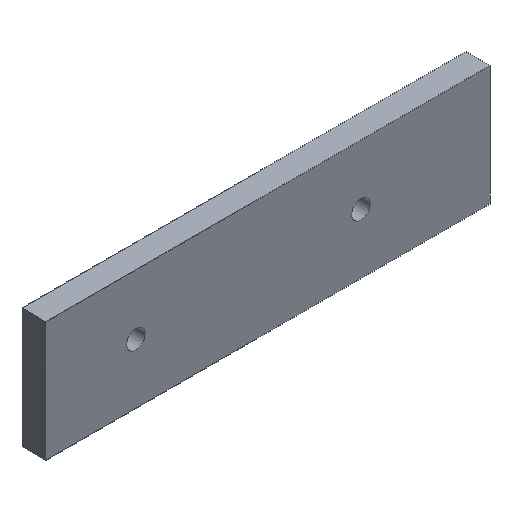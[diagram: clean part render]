
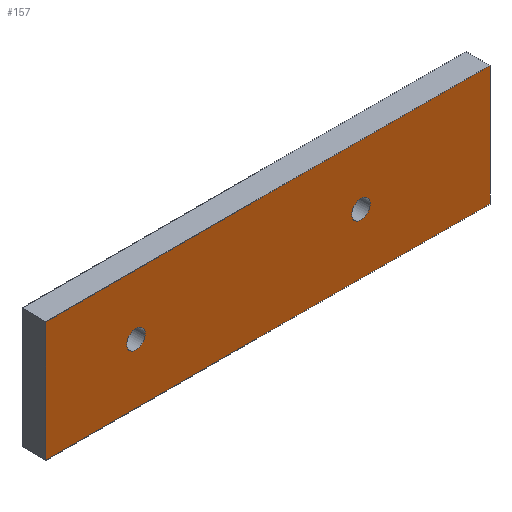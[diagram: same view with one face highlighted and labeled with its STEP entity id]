
A CAD part, isometric view. The second image highlights one B-rep face of the part: STEP entity #157.
In plain terms, the highlighted planar face has unit normal (0, -1, 0).
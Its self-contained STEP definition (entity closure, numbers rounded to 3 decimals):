
#15=FACE_BOUND('',#36,.T.);
#16=FACE_BOUND('',#37,.T.);
#19=PLANE('',#191);
#27=FACE_OUTER_BOUND('',#35,.T.);
#35=EDGE_LOOP('',(#123,#124,#125,#126));
#36=EDGE_LOOP('',(#127));
#37=EDGE_LOOP('',(#128));
#47=LINE('',#261,#61);
#48=LINE('',#263,#62);
#49=LINE('',#265,#63);
#50=LINE('',#266,#64);
#61=VECTOR('',#219,10.);
#62=VECTOR('',#220,10.);
#63=VECTOR('',#221,10.);
#64=VECTOR('',#222,10.);
#75=CIRCLE('',#186,3.1);
#78=CIRCLE('',#190,3.1);
#81=VERTEX_POINT('',#247);
#84=VERTEX_POINT('',#255);
#85=VERTEX_POINT('',#259);
#86=VERTEX_POINT('',#260);
#87=VERTEX_POINT('',#262);
#88=VERTEX_POINT('',#264);
#96=EDGE_CURVE('',#81,#81,#75,.T.);
#100=EDGE_CURVE('',#84,#84,#78,.T.);
#101=EDGE_CURVE('',#85,#86,#47,.T.);
#102=EDGE_CURVE('',#86,#87,#48,.T.);
#103=EDGE_CURVE('',#87,#88,#49,.T.);
#104=EDGE_CURVE('',#88,#85,#50,.T.);
#123=ORIENTED_EDGE('',*,*,#101,.T.);
#124=ORIENTED_EDGE('',*,*,#102,.T.);
#125=ORIENTED_EDGE('',*,*,#103,.T.);
#126=ORIENTED_EDGE('',*,*,#104,.T.);
#127=ORIENTED_EDGE('',*,*,#96,.T.);
#128=ORIENTED_EDGE('',*,*,#100,.T.);
#157=ADVANCED_FACE('',(#27,#15,#16),#19,.T.);
#186=AXIS2_PLACEMENT_3D('',#249,#206,#207);
#190=AXIS2_PLACEMENT_3D('',#257,#215,#216);
#191=AXIS2_PLACEMENT_3D('',#258,#217,#218);
#206=DIRECTION('center_axis',(0.,1.,0.));
#207=DIRECTION('ref_axis',(1.,0.,0.));
#215=DIRECTION('center_axis',(0.,1.,0.));
#216=DIRECTION('ref_axis',(1.,0.,0.));
#217=DIRECTION('center_axis',(0.,-1.,0.));
#218=DIRECTION('ref_axis',(0.,0.,-1.));
#219=DIRECTION('',(0.,0.,1.));
#220=DIRECTION('',(-1.,0.,0.));
#221=DIRECTION('',(0.,0.,-1.));
#222=DIRECTION('',(1.,0.,0.));
#247=CARTESIAN_POINT('',(-47.1,-4.,0.));
#249=CARTESIAN_POINT('Origin',(-44.,-4.,0.));
#255=CARTESIAN_POINT('',(27.9,-4.,0.));
#257=CARTESIAN_POINT('Origin',(31.,-4.,0.));
#258=CARTESIAN_POINT('Origin',(0.,-4.,0.));
#259=CARTESIAN_POINT('',(74.,-4.,-20.));
#260=CARTESIAN_POINT('',(74.,-4.,20.));
#261=CARTESIAN_POINT('',(74.,-4.,20.));
#262=CARTESIAN_POINT('',(-74.,-4.,20.));
#263=CARTESIAN_POINT('',(-74.,-4.,20.));
#264=CARTESIAN_POINT('',(-74.,-4.,-20.));
#265=CARTESIAN_POINT('',(-74.,-4.,-20.));
#266=CARTESIAN_POINT('',(74.,-4.,-20.));
